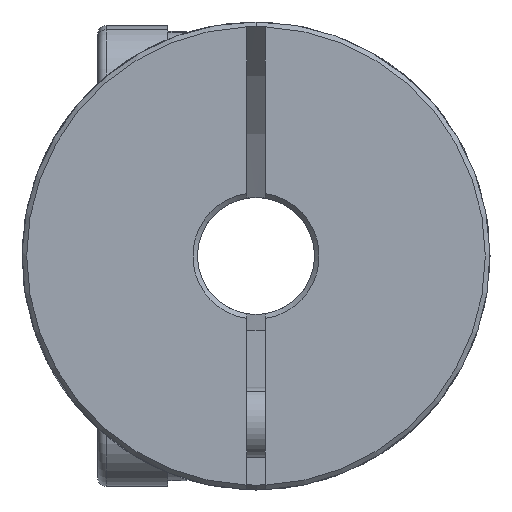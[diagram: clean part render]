
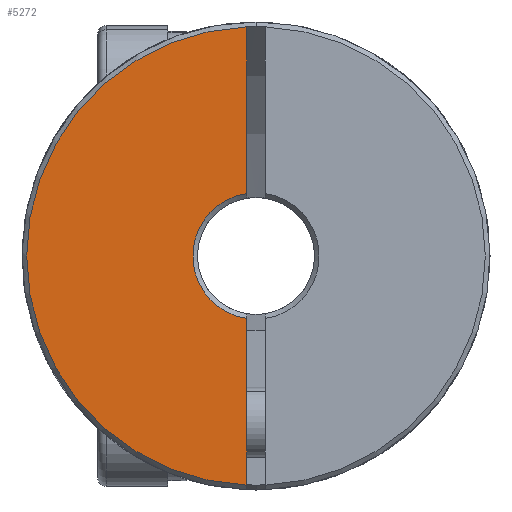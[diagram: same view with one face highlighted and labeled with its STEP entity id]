
A CAD part, front view. The second image highlights one B-rep face of the part: STEP entity #5272.
In plain terms, the highlighted planar face has unit normal (0, -1, 0).
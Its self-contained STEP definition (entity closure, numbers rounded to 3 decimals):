
#32 = CARTESIAN_POINT ( 'NONE',  ( -0.4, -17.5, -2.67 ) ) ;
#258 = VECTOR ( 'NONE', #1278, 1000. ) ;
#512 = ORIENTED_EDGE ( 'NONE', *, *, #1273, .T. ) ;
#798 = ORIENTED_EDGE ( 'NONE', *, *, #1326, .F. ) ;
#849 = DIRECTION ( 'NONE',  ( 0., 0., -1. ) ) ;
#1273 = EDGE_CURVE ( 'NONE', #5525, #6936, #1814, .T. ) ;
#1278 = DIRECTION ( 'NONE',  ( 0., 0., -1. ) ) ;
#1326 = EDGE_CURVE ( 'NONE', #5525, #4893, #1447, .T. ) ;
#1347 = VECTOR ( 'NONE', #849, 1000. ) ;
#1447 = LINE ( 'NONE', #5436, #1347 ) ;
#1496 = CARTESIAN_POINT ( 'NONE',  ( -0.4, -17.5, 2.67 ) ) ;
#1737 = CARTESIAN_POINT ( 'NONE',  ( -0.4, -17.5, -9.792 ) ) ;
#1814 = CIRCLE ( 'NONE', #3332, 2.7 ) ;
#2097 = CARTESIAN_POINT ( 'NONE',  ( 0., -17.5, 0. ) ) ;
#2138 = ORIENTED_EDGE ( 'NONE', *, *, #2631, .F. ) ;
#2532 = EDGE_CURVE ( 'NONE', #3231, #4893, #3672, .T. ) ;
#2631 = EDGE_CURVE ( 'NONE', #3231, #6936, #7035, .T. ) ;
#2900 = CARTESIAN_POINT ( 'NONE',  ( 0., -17.5, 0. ) ) ;
#3010 = CARTESIAN_POINT ( 'NONE',  ( -0.4, -17.5, 0. ) ) ;
#3164 = PLANE ( 'NONE',  #3368 ) ;
#3218 = CARTESIAN_POINT ( 'NONE',  ( -0.4, -17.5, 9.792 ) ) ;
#3231 = VERTEX_POINT ( 'NONE', #3218 ) ;
#3239 = DIRECTION ( 'NONE',  ( 0., 1., 0. ) ) ;
#3295 = AXIS2_PLACEMENT_3D ( 'NONE', #2900, #6974, #3489 ) ;
#3332 = AXIS2_PLACEMENT_3D ( 'NONE', #4859, #3712, #4884 ) ;
#3368 = AXIS2_PLACEMENT_3D ( 'NONE', #2097, #3239, #6651 ) ;
#3489 = DIRECTION ( 'NONE',  ( 0., 0., 1. ) ) ;
#3672 = CIRCLE ( 'NONE', #3295, 9.8 ) ;
#3712 = DIRECTION ( 'NONE',  ( 0., 1., 0. ) ) ;
#4859 = CARTESIAN_POINT ( 'NONE',  ( 0., -17.5, 0. ) ) ;
#4884 = DIRECTION ( 'NONE',  ( 0., 0., 1. ) ) ;
#4893 = VERTEX_POINT ( 'NONE', #1737 ) ;
#5272 = ADVANCED_FACE ( 'NONE', ( #7109 ), #3164, .F. ) ;
#5436 = CARTESIAN_POINT ( 'NONE',  ( -0.4, -17.5, 0. ) ) ;
#5525 = VERTEX_POINT ( 'NONE', #32 ) ;
#6405 = ORIENTED_EDGE ( 'NONE', *, *, #2532, .T. ) ;
#6651 = DIRECTION ( 'NONE',  ( 0., 0., 1. ) ) ;
#6936 = VERTEX_POINT ( 'NONE', #1496 ) ;
#6974 = DIRECTION ( 'NONE',  ( 0., -1., 0. ) ) ;
#7035 = LINE ( 'NONE', #3010, #258 ) ;
#7109 = FACE_OUTER_BOUND ( 'NONE', #7124, .T. ) ;
#7124 = EDGE_LOOP ( 'NONE', ( #2138, #6405, #798, #512 ) ) ;
